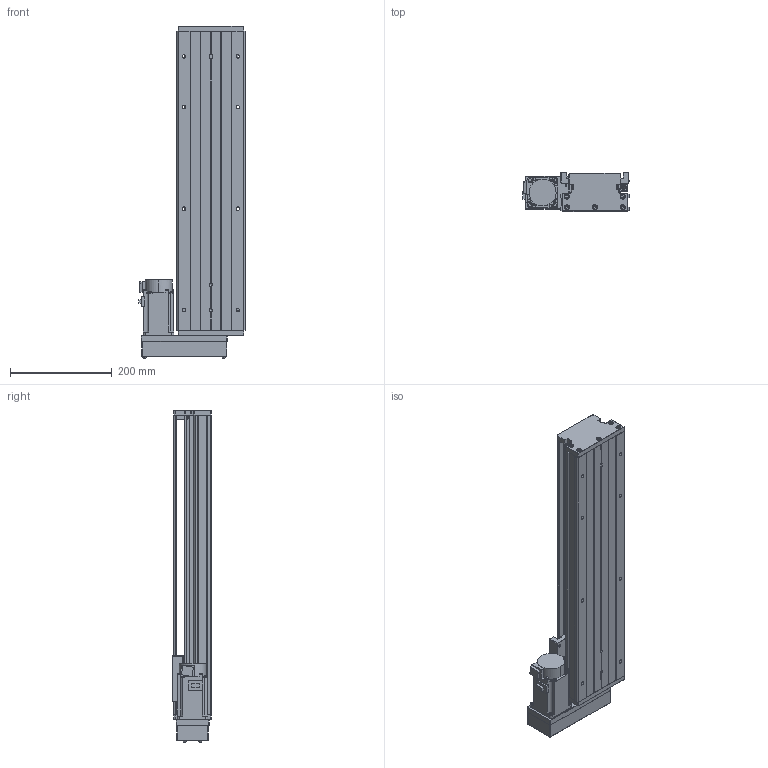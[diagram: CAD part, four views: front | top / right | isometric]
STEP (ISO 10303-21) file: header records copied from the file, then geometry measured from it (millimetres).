
FILE_DESCRIPTION (( 'STEP AP203' ), '1' );
FILE_NAME ('KTH130-450-BL-M40-C4.step', '2023-06-30T03:58:44', ( '微软用户' ), ( '微软中国' ), 'SwSTEP 2.0', 'SolidWorks 2020', '' );
FILE_SCHEMA (( 'CONFIG_CONTROL_DESIGN' ));
Length unit declared in the file: millimetre
Products named in the file (19): GBT 70.2-M3¡Á5_M3¡Á6; GBT 70.3-M3℅8; GTH14-001_450; CTHA60-017; HG-KN43J-S100; KTH130-002_KTH130-002; EE_SX911P_R; GBT 70.2-M4¡Á35_M4¡Á35; KTH130-004; CTHA60-016; GTH14-015-2_CTHA86-015-2; KTH130-005; GBT 70.1-M3℅5; GTH14-033; GB1155-6X6; GBT77-2000 M3×3; KTH130-450-BL-M40-C4; GBT70.1 M5℅16; す晦芛蹟隊 M3℅5
Assembly tree (53 placements, depth 2):
  KTH130-450-BL-M40-C4
    GTH14-001_450
    KTH130-002_KTH130-002
    KTH130-004
    KTH130-005
    GB1155-6X6  x2
    GBT70.1 M5℅16  x10
    GBT 70.2-M3¡Á5_M3¡Á6  x4
    CTHA60-017  x3
    EE_SX911P_R  x3
    CTHA60-016  x2
    GBT 70.1-M3℅5  x6
    GBT77-2000 M3×3  x6
    す晦芛蹟隊 M3℅5  x2
    GBT 70.3-M3℅8  x4
    HG-KN43J-S100
    GBT 70.2-M4¡Á35_M4¡Á35  x4
    GTH14-015-2_CTHA86-015-2
    GTH14-033
Bounding box: 209.3 x 78 x 654.2 mm (x, y, z)
Volume: 3874745.1 mm3; surface area: 657912.8 mm2
Topology: 56 solids, 56 shells, 2213 faces, 5342 edges, 3326 vertices
Faces by surface type: plane 1195, cylinder 604, cone 290, torus 100, sphere 24
Entity records: 40250 total; most frequent: CARTESIAN_POINT 8584, DIRECTION 5979, ORIENTED_EDGE 5884, EDGE_CURVE 2942, AXIS2_PLACEMENT_3D 2052, VERTEX_POINT 1879, VECTOR 1875, LINE 1875
